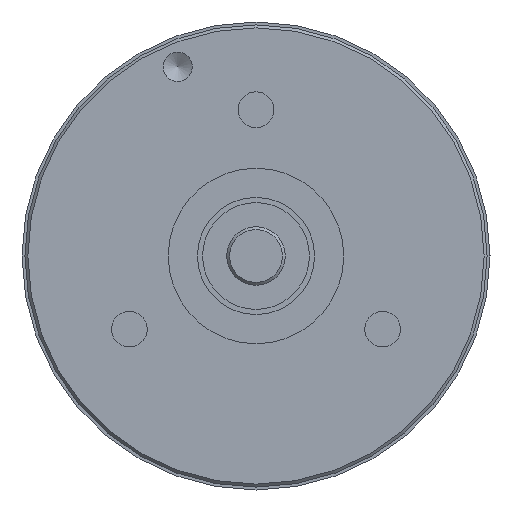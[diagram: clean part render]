
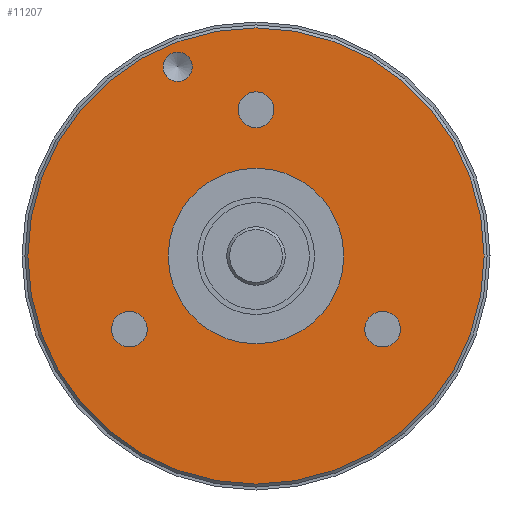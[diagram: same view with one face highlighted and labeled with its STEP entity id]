
A CAD part, left-side view. The second image highlights one B-rep face of the part: STEP entity #11207.
In plain terms, the highlighted planar face has unit normal (-1, 0, 0).
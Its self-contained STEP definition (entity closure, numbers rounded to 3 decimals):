
#328=FACE_BOUND('',#1852,.T.);
#329=FACE_BOUND('',#1853,.T.);
#330=FACE_BOUND('',#1854,.T.);
#331=FACE_BOUND('',#1855,.T.);
#332=FACE_BOUND('',#1856,.T.);
#631=PLANE('',#12324);
#1214=FACE_OUTER_BOUND('',#1851,.T.);
#1851=EDGE_LOOP('',(#9749));
#1852=EDGE_LOOP('',(#9750));
#1853=EDGE_LOOP('',(#9751));
#1854=EDGE_LOOP('',(#9752));
#1855=EDGE_LOOP('',(#9753));
#1856=EDGE_LOOP('',(#9754));
#4033=CIRCLE('',#12288,0.611);
#4035=CIRCLE('',#12291,0.611);
#4038=CIRCLE('',#12295,0.611);
#4050=CIRCLE('',#12314,3.);
#4052=CIRCLE('',#12319,7.8);
#4054=CIRCLE('',#12323,0.5);
#5061=VERTEX_POINT('',#19340);
#5063=VERTEX_POINT('',#19346);
#5066=VERTEX_POINT('',#19354);
#5078=VERTEX_POINT('',#19390);
#5080=VERTEX_POINT('',#19400);
#5083=VERTEX_POINT('',#19409);
#6609=EDGE_CURVE('',#5061,#5061,#4033,.T.);
#6612=EDGE_CURVE('',#5063,#5063,#4035,.T.);
#6616=EDGE_CURVE('',#5066,#5066,#4038,.T.);
#6633=EDGE_CURVE('',#5078,#5078,#4050,.T.);
#6639=EDGE_CURVE('',#5080,#5080,#4052,.T.);
#6642=EDGE_CURVE('',#5083,#5083,#4054,.T.);
#9749=ORIENTED_EDGE('',*,*,#6639,.T.);
#9750=ORIENTED_EDGE('',*,*,#6609,.T.);
#9751=ORIENTED_EDGE('',*,*,#6612,.T.);
#9752=ORIENTED_EDGE('',*,*,#6616,.T.);
#9753=ORIENTED_EDGE('',*,*,#6633,.T.);
#9754=ORIENTED_EDGE('',*,*,#6642,.T.);
#11207=ADVANCED_FACE('',(#1214,#328,#329,#330,#331,#332),#631,.T.);
#12288=AXIS2_PLACEMENT_3D('',#19341,#15240,#15241);
#12291=AXIS2_PLACEMENT_3D('',#19347,#15247,#15248);
#12295=AXIS2_PLACEMENT_3D('',#19355,#15256,#15257);
#12314=AXIS2_PLACEMENT_3D('',#19391,#15299,#15300);
#12319=AXIS2_PLACEMENT_3D('',#19402,#15313,#15314);
#12323=AXIS2_PLACEMENT_3D('',#19410,#15322,#15323);
#12324=AXIS2_PLACEMENT_3D('',#19412,#15325,#15326);
#15240=DIRECTION('center_axis',(1.,0.,0.));
#15241=DIRECTION('ref_axis',(0.,0.866,-0.5));
#15247=DIRECTION('center_axis',(1.,0.,0.));
#15248=DIRECTION('ref_axis',(0.,-0.866,-0.5));
#15256=DIRECTION('center_axis',(1.,0.,0.));
#15257=DIRECTION('ref_axis',(0.,0.,1.));
#15299=DIRECTION('center_axis',(1.,0.,0.));
#15300=DIRECTION('ref_axis',(0.,0.,1.));
#15313=DIRECTION('center_axis',(-1.,0.,0.));
#15314=DIRECTION('ref_axis',(0.,0.,1.));
#15322=DIRECTION('center_axis',(1.,0.,0.));
#15323=DIRECTION('ref_axis',(0.,0.383,0.924));
#15325=DIRECTION('center_axis',(-1.,0.,0.));
#15326=DIRECTION('ref_axis',(0.,0.,-1.));
#19340=CARTESIAN_POINT('',(0.,3.801,-2.195));
#19341=CARTESIAN_POINT('Origin',(0.,4.33,-2.5));
#19346=CARTESIAN_POINT('',(0.,-3.801,-2.195));
#19347=CARTESIAN_POINT('Origin',(0.,-4.33,-2.5));
#19354=CARTESIAN_POINT('',(0.,0.,4.39));
#19355=CARTESIAN_POINT('Origin',(0.,0.,5.));
#19390=CARTESIAN_POINT('',(0.,0.,-3.));
#19391=CARTESIAN_POINT('Origin',(0.,0.,0.));
#19400=CARTESIAN_POINT('',(0.,0.,-7.8));
#19402=CARTESIAN_POINT('Origin',(0.,0.,0.));
#19409=CARTESIAN_POINT('',(0.,2.487,6.005));
#19410=CARTESIAN_POINT('Origin',(0.,2.679,6.467));
#19412=CARTESIAN_POINT('Origin',(0.,0.,5.45));
